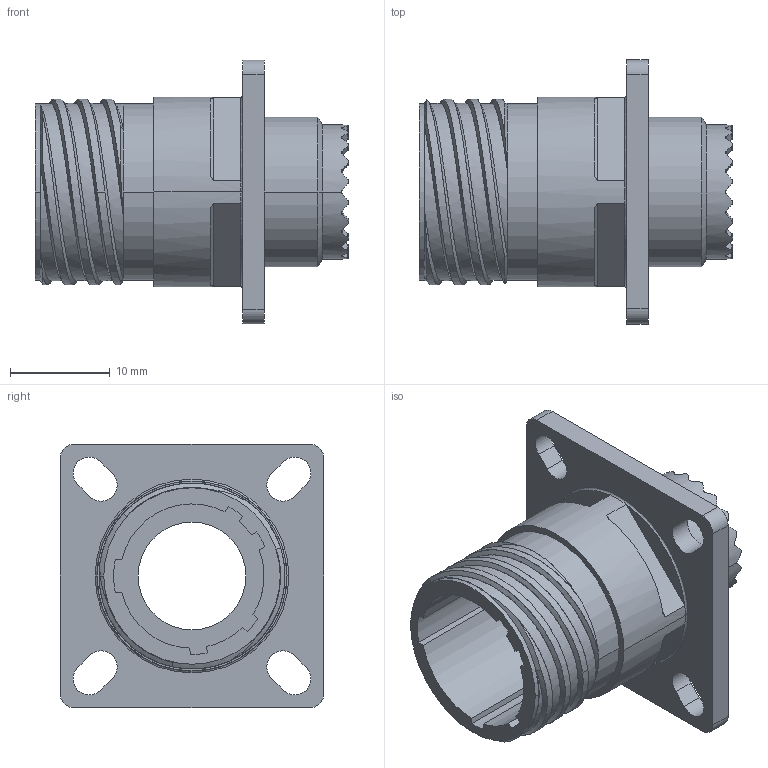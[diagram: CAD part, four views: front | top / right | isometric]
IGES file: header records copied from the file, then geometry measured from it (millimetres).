
Start section:  PTC IGES file: tv00_11_recp-shell.igs
Global section: file name: tv00_11_recp-shell.igs; native system: Creo Parametric by PTC Inc.; preprocessor: 2016260; author: t-nakamura; organization: Unknown; date: 20170622.210933; units: millimetre
Bounding box: 31.49 x 26.49 x 26.49 mm (x, y, z)
Surface area: 4670 mm2 (no closed solid volume)
Topology: 0 solids, 0 shells, 207 faces, 1166 edges, 1166 vertices
Faces by surface type: revolution 114, bspline 93
